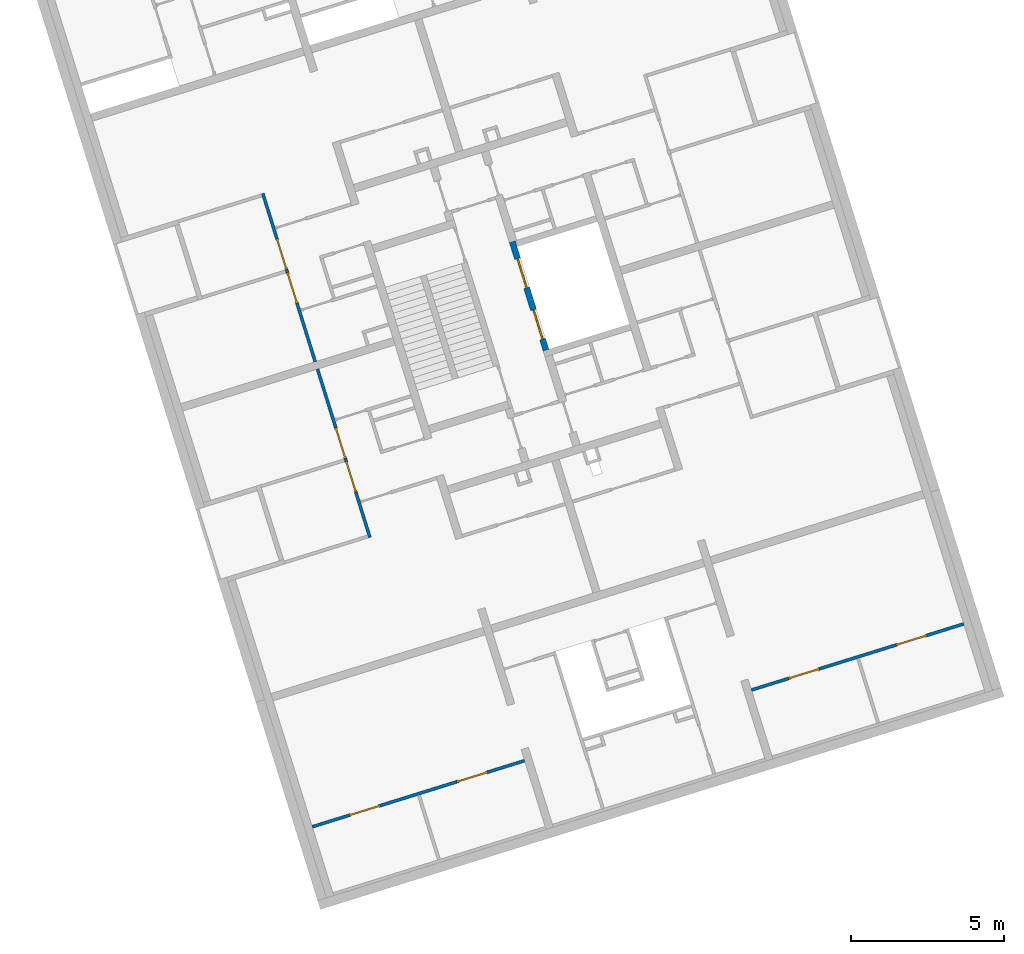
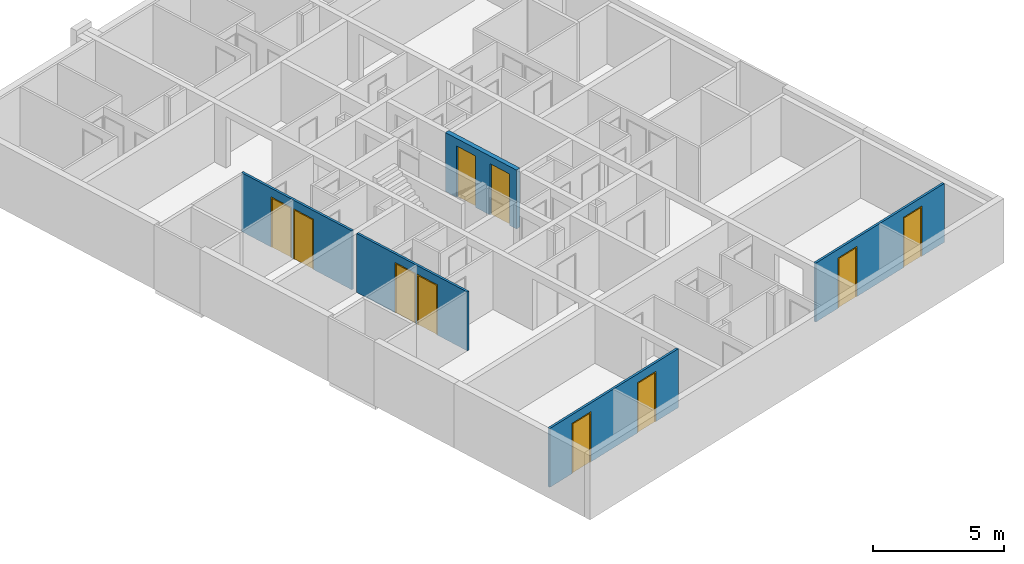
# One storey, part 10 of 12: 10 doors, 5 walls, 10 openings.
"""IFC4 building model written with IfcOpenShell, lengths in metres."""

from ifc_helpers import new_model, entity, si_unit, converted_unit, direction, frame, origin, place, context, subcontext, project, spatial, indexed_curve, outline, extrude, polygons, source, transform, mapped, material, constituent, constituent_set, type_object, type_shapes, element, fill, save


model = new_model("IFC4")

# Units and contexts
model_context = context("Model", 3, precision=1e-05, world=origin(), true_north=direction((6.12323399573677e-17, 1.0)))
body_context = subcontext(model_context, "Body", "Model", "MODEL_VIEW")
ifc_project = project(units=[si_unit("LENGTHUNIT", "METRE"), si_unit("AREAUNIT", "SQUARE_METRE"), converted_unit("PLANEANGLEUNIT", "DEGREE", entity("IfcPlaneAngleMeasure", 0.0174532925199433), si_unit("PLANEANGLEUNIT", "RADIAN"), dimensions=[0, 0, 0, 0, 0, 0, 0]), si_unit("VOLUMEUNIT", "CUBIC_METRE")], contexts=[model_context])

# Site, building, storey
site_placement = place(None, frame((13.1347999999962, 11.9886000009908, 0.0), z_axis=(0.0, 0.0, 1.0), x_axis=(0.954770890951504, 0.297342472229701, 0.0)))
site = spatial("IfcSite", under=ifc_project, at=site_placement, Name="Schiehaven", CompositionType="ELEMENT")
building_placement = place(site_placement, origin())
building = spatial("IfcBuilding", under=site, at=building_placement, Name="VORM huis", CompositionType="ELEMENT")
storey_placement = place(building_placement, frame((0.0, 0.0, 3.9)))
storey = spatial("IfcBuildingStorey", under=building, at=storey_placement, Name="01 eerste verdieping", CompositionType="ELEMENT", Elevation=3.9)

# Wall, openings, doors
ifc_material_1 = material(Name="beton_gewapend_prefab-element", Category="Miscellaneous")
wall_type_1 = type_object("IfcWallType", Name="Basic Wall:28_WA_skelet_wand 200mm_gen", PredefinedType="STANDARD")
wall_1_placement = place(storey_placement, frame((69.5250000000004, 15.3, 0.0), z_axis=(0.0, 0.0, 1.0), x_axis=(0.0, 1.0, 0.0)))
wall_1 = element("IfcWall", 1, at=wall_1_placement, inside=storey, type_object=wall_type_1, material=ifc_material_1, Name="Constructieve wand", ObjectType="Wand", PredefinedType="NOTDEFINED", context=body_context, shape_type="Tessellation", body=[
    polygons([(3.69999999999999, -0.0999999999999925, 2.75), (3.49999999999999, -0.1, 2.75), (2.16573425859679e-15, -0.0999999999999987, 2.75), (2.16573425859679e-15, -0.0999999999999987, -5.41433564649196e-16), (0.374999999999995, -0.100000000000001, -5.41433564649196e-16), (0.374999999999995, -0.100000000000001, 2.39999999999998), (1.37499999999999, -0.0999999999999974, 2.39999999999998), (1.375, -0.0999999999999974, -5.41433564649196e-16), (2.125, -0.100000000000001, -5.41433564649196e-16), (2.125, -0.100000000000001, 2.39999999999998), (3.125, -0.0999999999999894, 2.39999999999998), (3.125, -0.0999999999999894, -5.41433564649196e-16), (3.49999999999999, -0.1, 0.0), (3.69999999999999, -0.0999999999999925, -5.41433564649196e-16), (0.0, 0.0999999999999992, 2.75), (3.69999999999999, 0.0999999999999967, 2.75), (3.69999999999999, 0.0999999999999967, -5.41433564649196e-16), (3.125, 0.0999999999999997, -5.41433564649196e-16), (3.125, 0.0999999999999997, 2.39999999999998), (2.125, 0.100000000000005, 2.39999999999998), (2.125, 0.0999999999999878, -5.41433564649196e-16), (1.37499999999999, 0.0999999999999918, -5.41433564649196e-16), (1.37499999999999, 0.0999999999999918, 2.39999999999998), (0.374999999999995, 0.0999999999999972, 2.39999999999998), (0.374999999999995, 0.0999999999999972, -5.41433564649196e-16), (0.0, 0.0999999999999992, -5.41433564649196e-16)], [[[1, 2, 3, 4, 5, 6, 7, 8, 9, 10, 11, 12, 13, 14]], [[15, 16, 17, 18, 19, 20, 21, 22, 23, 24, 25, 26]], [[5, 4, 26, 25]], [[3, 2, 1, 16, 15]], [[7, 23, 22, 8]], [[24, 6, 5, 25]], [[23, 7, 6, 24]], [[11, 19, 18, 12]], [[20, 10, 9, 21]], [[19, 11, 10, 20]], [[4, 3, 15, 26]], [[1, 14, 17, 16]], [[8, 22, 21, 9]], [[17, 14, 13, 12, 18]]], closed=True),
])
opening_1_placement = place(wall_1_placement, frame((-15.3, 69.5250000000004, 0.0), z_axis=(0.0, 0.0, 1.0), x_axis=(0.0, -1.0, 0.0)))
opening_1 = element("IfcOpeningElement", 2, at=opening_1_placement, cuts=wall_1, Name="Brandweerlift", PredefinedType="OPENING", context=body_context, shape_type="SweptSolid", body=[
    extrude(outline(indexed_curve([(-1.19999999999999, -0.500000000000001), (1.19999999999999, -0.500000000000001), (1.19999999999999, 0.499999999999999), (-1.19999999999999, 0.499999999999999), (-1.19999999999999, -0.500000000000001)], self_intersect=False)), frame((70.0126380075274, 16.175, 1.19999999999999), z_axis=(-1.0, 0.0, 0.0), x_axis=(0.0, 0.0, -1.0)), (0.0, 0.0, 1.0), 0.756310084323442),
])
opening_2_placement = place(wall_1_placement, frame((-15.3, 69.5250000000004, 0.0), z_axis=(0.0, 0.0, 1.0), x_axis=(0.0, -1.0, 0.0)))
opening_2 = element("IfcOpeningElement", 3, at=opening_2_placement, cuts=wall_1, Name="Brandweerlift", PredefinedType="OPENING", context=body_context, shape_type="SweptSolid", body=[
    extrude(outline(indexed_curve([(-1.19999999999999, -0.499999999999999), (1.19999999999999, -0.499999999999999), (1.19999999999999, 0.500000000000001), (-1.19999999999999, 0.500000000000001), (-1.19999999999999, -0.499999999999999)], self_intersect=False)), frame((70.0126380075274, 17.9250000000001, 1.19999999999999), z_axis=(-1.0, 0.0, 0.0), x_axis=(0.0, 0.0, -1.0)), (0.0, 0.0, 1.0), 0.756310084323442),
])
ifc_material_2 = material(Name="metaal_aluminium_ntb", Category="Miscellaneous")
door_type_1 = type_object("IfcDoorType", Name="66_WI_liftdeur:brandweerlift - tweezijdig toegankelijk", OperationType="NOTDEFINED", PredefinedType="DOOR", material=ifc_material_2)
shared_shape_1 = source(origin(), body_context, "Body", "SweptSolid", [
    extrude(outline(indexed_curve([(-0.25, -0.0250000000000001), (0.25, -0.0249999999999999), (0.25, 0.0250000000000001), (-0.25, 0.0249999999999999), (-0.25, -0.0250000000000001)], self_intersect=False)), frame((0.750000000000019, -0.28763800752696, 0.0)), (0.0, 0.0, 1.0), 2.39999999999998),
    extrude(outline(indexed_curve([(-0.25, -0.0250000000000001), (0.25, -0.0249999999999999), (0.25, 0.0250000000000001), (-0.25, 0.0249999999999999), (-0.25, -0.0250000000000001)], self_intersect=False)), frame((0.250000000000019, -0.287638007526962, 0.0)), (0.0, 0.0, 1.0), 2.39999999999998),
])
type_shapes(door_type_1, [shared_shape_1])
door_1_placement = place(opening_1_placement, frame((69.2373619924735, 15.675, 0.0), z_axis=(0.0, 0.0, 1.0), x_axis=(0.0, 1.0, 0.0)))
door_1 = element("IfcDoor", 4, at=door_1_placement, inside=storey, type_object=door_type_1, material=ifc_material_2, Name="Brandweerlift", ObjectType="Transport", OperationType="NOTDEFINED", OverallHeight=2.39999999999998, OverallWidth=1.0, PredefinedType="DOOR", context=body_context, shape_type="MappedRepresentation", body=[
    mapped(shared_shape_1, transform((0.0, 0.0, 0.0), scale=1.0)),
])
fill(opening_1, door_1)
door_2_placement = place(opening_2_placement, frame((69.2373619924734, 17.425, 0.0), z_axis=(0.0, 0.0, 1.0), x_axis=(0.0, 1.0, 0.0)))
door_2 = element("IfcDoor", 5, at=door_2_placement, inside=storey, type_object=door_type_1, material=ifc_material_2, Name="Brandweerlift", ObjectType="Transport", OperationType="NOTDEFINED", OverallHeight=2.39999999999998, OverallWidth=1.0, PredefinedType="DOOR", context=body_context, shape_type="MappedRepresentation", body=[
    mapped(shared_shape_1, transform((0.0, 0.0, 0.0), scale=1.0)),
])
fill(opening_2, door_2)

ifc_material_3 = material(Name="ntb_ntb_ntb", Category="Miscellaneous")
wall_type_2 = type_object("IfcWallType", Name="Basic Wall:22_WA_afbouw_binnenwand 100mm_gen", PredefinedType="STANDARD")
wall_2_placement = place(storey_placement, frame((62.2250000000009, 16.925, 0.0), z_axis=(0.0, 0.0, 1.0), x_axis=(0.0, -1.0, 0.0)))
wall_2 = element("IfcWall", 6, at=wall_2_placement, inside=storey, type_object=wall_type_2, material=ifc_material_3, Name="Binnenwand", ObjectType="Wand", PredefinedType="NOTDEFINED", context=body_context, shape_type="Tessellation", body=[
    polygons([(3.04999999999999, -0.0499999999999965, -5.41433564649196e-16), (3.15, -0.0499999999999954, -5.41433564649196e-16), (3.15, -0.0499999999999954, 2.34999999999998), (4.2, -0.0500000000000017, 2.34999999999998), (4.2, -0.0500000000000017, -5.41433564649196e-16), (5.65, -0.0500000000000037, 0.0), (5.74999999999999, -0.0500000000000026, -5.41433564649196e-16), (5.74999999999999, -0.0500000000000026, 2.75), (5.65, -0.0500000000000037, 2.75), (3.15, -0.0500000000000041, 2.75), (3.05, -0.0500000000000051, 2.75), (0.0, -0.0500000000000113, 2.75), (0.0, -0.0500000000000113, -5.41433564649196e-16), (2.0, -0.0499999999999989, -5.41433564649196e-16), (1.99999999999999, -0.0499999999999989, 2.34999999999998), (3.04999999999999, -0.0499999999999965, 2.34999999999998), (3.14999999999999, 0.0499999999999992, 2.34999999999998), (3.14999999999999, 0.0499999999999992, -5.41433564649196e-16), (3.04999999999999, 0.0499999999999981, -5.41433564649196e-16), (3.04999999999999, 0.0499999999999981, 2.34999999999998), (1.99999999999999, 0.0500000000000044, 2.34999999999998), (1.99999999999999, 0.0500000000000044, -5.41433564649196e-16), (1.8, 0.0500000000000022, 0.0), (1.70000000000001, 0.0500000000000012, 0.0), (-2.16573425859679e-15, 0.0500000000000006, -5.41433564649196e-16), (-2.16573425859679e-15, 0.0500000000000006, 2.75), (1.70000000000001, 0.0500000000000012, 2.75), (1.8, 0.0500000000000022, 2.75), (4.50000000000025, 0.0500000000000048, 2.75), (4.60000000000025, 0.0500000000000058, 2.75), (5.74999999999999, 0.0500000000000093, 2.75), (5.74999999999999, 0.0500000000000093, -5.41433564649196e-16), (4.60000000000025, 0.0500000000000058, 0.0), (4.50000000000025, 0.0500000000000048, 0.0), (4.19999999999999, 0.0500000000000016, -5.41433564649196e-16), (4.19999999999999, 0.0500000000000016, 2.34999999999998)], [[[1, 2, 3, 4, 5, 6, 7, 8, 9, 10, 11, 12, 13, 14, 15, 16]], [[17, 18, 19, 20, 21, 22, 23, 24, 25, 26, 27, 28, 29, 30, 31, 32, 33, 34, 35, 36]], [[13, 25, 24, 23, 22, 14]], [[12, 11, 10, 9, 8, 31, 30, 29, 28, 27, 26]], [[13, 12, 26, 25]], [[16, 20, 19, 1]], [[21, 15, 14, 22]], [[20, 16, 15, 21]], [[5, 4, 36, 35]], [[3, 2, 18, 17]], [[4, 3, 17, 36]], [[8, 7, 32, 31]], [[19, 18, 2, 1]], [[35, 34, 33, 32, 7, 6, 5]]], closed=True),
])
opening_3_placement = place(wall_2_placement, frame((2.0, -0.0500000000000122, 0.0)))
opening_3 = element("IfcOpeningElement", 7, at=opening_3_placement, cuts=wall_2, Name="Binnendeur", PredefinedType="OPENING", context=body_context, shape_type="SweptSolid", body=[
    extrude(outline(indexed_curve([(2.34999999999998, 1.05), (0.0, 1.05), (0.0, 1.35358391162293e-15), (2.34999999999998, 1.35358391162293e-15), (2.34999999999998, 1.05)], self_intersect=False)), frame((0.0, 0.0, 0.0), z_axis=(0.0, 1.0, 0.0), x_axis=(0.0, 0.0, 1.0)), (0.0, 0.0, 1.0), 0.1),
])
opening_4_placement = place(wall_2_placement, frame((3.15, -0.0500000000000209, 0.0)))
opening_4 = element("IfcOpeningElement", 8, at=opening_4_placement, cuts=wall_2, Name="Binnendeur", PredefinedType="OPENING", context=body_context, shape_type="SweptSolid", body=[
    extrude(outline(indexed_curve([(2.34999999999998, 1.05), (0.0, 1.05), (0.0, 1.08286712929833e-15), (2.34999999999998, 1.08286712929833e-15), (2.34999999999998, 1.05)], self_intersect=False)), frame((0.0, 0.0, 0.0), z_axis=(0.0, 1.0, 0.0), x_axis=(0.0, 0.0, 1.0)), (0.0, 0.0, 1.0), 0.1),
])
ifc_material_4 = material(Name="PD_a_binnenwandopeningen", Category="Miscellaneous")
ifc_constituent_1 = constituent(ifc_material_4, Name="PD_a_binnenwandopeningen", Category="Miscellaneous")
ifc_constituent_2 = constituent(ifc_material_2, Name="metaal_aluminium_ntb", Category="Miscellaneous")
ifc_constituent_set_1 = constituent_set(constituents=[ifc_constituent_1, ifc_constituent_2])
ifc_constituent_3 = constituent(ifc_material_4, Name="PD_a_binnenwandopeningen", Category="Miscellaneous")
ifc_constituent_4 = constituent(ifc_material_2, Name="Panel", Category="Miscellaneous")
ifc_constituent_set_2 = constituent_set(constituents=[ifc_constituent_3, ifc_constituent_4])
door_type_2 = type_object("IfcDoorType", Name="32_DO_binnendeur enkel:binnendeur", OperationType="REVOLVING", PredefinedType="DOOR", material=ifc_constituent_set_2)
shared_shape_2 = source(origin(), body_context, "Body", "SweptSolid", [
    extrude(outline(indexed_curve([(-1.16249999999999, -0.525000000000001), (1.18749999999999, -0.525), (1.18749999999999, 0.525), (-1.16249999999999, 0.525), (-1.16249999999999, 0.475), (1.13749999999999, 0.475), (1.13749999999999, -0.475), (-1.16249999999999, -0.475), (-1.16249999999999, -0.525000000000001)], self_intersect=False)), frame((0.525000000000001, 0.0, 1.16249999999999), z_axis=(0.0, 1.0, 0.0), x_axis=(0.0, 0.0, 1.0)), (0.0, 0.0, 1.0), 0.1),
    extrude(outline(indexed_curve([(-0.025, -0.475), (0.025, -0.475), (0.025, 0.475), (-0.025, 0.475), (-0.025, -0.475)], self_intersect=False)), frame((0.525000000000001, 0.0499999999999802, 0.0), z_axis=(0.0, 0.0, 1.0), x_axis=(0.0, 1.0, 0.0)), (0.0, 0.0, 1.0), 2.29999999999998),
])
type_shapes(door_type_2, [shared_shape_2])
door_3_placement = place(opening_3_placement, origin())
door_3 = element("IfcDoor", 9, at=door_3_placement, inside=storey, type_object=door_type_2, material=ifc_constituent_set_1, Name="Binnendeur", ObjectType="Deur", OperationType="REVOLVING", OverallHeight=2.34999999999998, OverallWidth=1.05, PredefinedType="DOOR", context=body_context, shape_type="MappedRepresentation", body=[
    mapped(shared_shape_2, transform((0.0, 0.0, 0.0), scale=1.0)),
])
fill(opening_3, door_3)
ifc_constituent_5 = constituent(ifc_material_4, Name="PD_a_binnenwandopeningen", Category="Miscellaneous")
ifc_constituent_6 = constituent(ifc_material_2, Name="metaal_aluminium_ntb", Category="Miscellaneous")
ifc_constituent_set_3 = constituent_set(constituents=[ifc_constituent_5, ifc_constituent_6])
door_4_placement = place(opening_4_placement, origin())
door_4 = element("IfcDoor", 10, at=door_4_placement, inside=storey, type_object=door_type_2, material=ifc_constituent_set_3, Name="Binnendeur", ObjectType="Deur", OperationType="REVOLVING", OverallHeight=2.34999999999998, OverallWidth=1.05, PredefinedType="DOOR", context=body_context, shape_type="MappedRepresentation", body=[
    mapped(shared_shape_2, transform((0.0, 0.0, 0.0), scale=1.0)),
])
fill(opening_4, door_4)

wall_3_placement = place(storey_placement, frame((62.2250000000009, 17.1749999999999, 0.0), z_axis=(0.0, 0.0, 1.0), x_axis=(0.0, 1.0, 0.0)))
wall_3 = element("IfcWall", 11, at=wall_3_placement, inside=storey, type_object=wall_type_2, material=ifc_material_3, Name="Binnenwand", ObjectType="Wand", PredefinedType="NOTDEFINED", context=body_context, shape_type="Tessellation", body=[
    polygons([(3.05, -0.0499999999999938, -5.41433564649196e-16), (3.15, -0.0499999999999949, -5.41433564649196e-16), (3.15, -0.0499999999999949, 2.34999999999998), (4.2, -0.0500000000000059, 2.34999999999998), (4.2, -0.0500000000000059, -5.41433564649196e-16), (4.50000000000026, -0.0500000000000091, 0.0), (4.60000000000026, -0.0500000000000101, 0.0), (5.74999999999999, -0.0500000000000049, -5.41433564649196e-16), (5.74999999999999, -0.0500000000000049, 2.75), (4.60000000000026, -0.0500000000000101, 2.75), (4.50000000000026, -0.0500000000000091, 2.75), (1.8, -0.0500000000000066, 2.75), (1.7, -0.0500000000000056, 2.75), (0.0, -0.0500000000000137, 2.75), (0.0, -0.0500000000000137, -5.41433564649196e-16), (1.7, -0.0500000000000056, 0.0), (1.8, -0.0500000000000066, 0.0), (1.99999999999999, -0.0500000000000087, -5.41433564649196e-16), (1.99999999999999, -0.0500000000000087, 2.34999999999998), (3.04999999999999, -0.0499999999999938, 2.34999999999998), (3.15, 0.0499999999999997, 2.34999999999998), (3.15, 0.0499999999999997, -5.41433564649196e-16), (3.05, 0.0500000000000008, -5.41433564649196e-16), (3.05, 0.0500000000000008, 2.34999999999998), (1.99999999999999, 0.0499999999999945, 2.34999999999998), (1.99999999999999, 0.0499999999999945, -5.41433564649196e-16), (2.16573425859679e-15, 0.0499999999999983, -5.41433564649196e-16), (2.16573425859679e-15, 0.0499999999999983, 2.75), (3.05, 0.0500000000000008, 2.75), (3.14999999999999, 0.0499999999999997, 2.75), (5.64999999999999, 0.0499999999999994, 2.75), (5.74999999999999, 0.0499999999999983, 2.75), (5.74999999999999, 0.0499999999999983, -5.41433564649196e-16), (5.64999999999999, 0.0499999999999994, 0.0), (4.2, 0.0499999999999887, -5.41433564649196e-16), (4.2, 0.0499999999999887, 2.34999999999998)], [[[1, 2, 3, 4, 5, 6, 7, 8, 9, 10, 11, 12, 13, 14, 15, 16, 17, 18, 19, 20]], [[21, 22, 23, 24, 25, 26, 27, 28, 29, 30, 31, 32, 33, 34, 35, 36]], [[15, 27, 26, 18, 17, 16]], [[14, 13, 12, 11, 10, 9, 32, 31, 30, 29, 28]], [[15, 14, 28, 27]], [[20, 24, 23, 1]], [[25, 19, 18, 26]], [[24, 20, 19, 25]], [[5, 4, 36, 35]], [[3, 2, 22, 21]], [[4, 3, 21, 36]], [[9, 8, 33, 32]], [[23, 22, 2, 1]], [[35, 34, 33, 8, 7, 6, 5]]], closed=True),
])
opening_5_placement = place(wall_3_placement, frame((3.04999999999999, 0.0500000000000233, 0.0)))
opening_5 = element("IfcOpeningElement", 12, at=opening_5_placement, cuts=wall_3, Name="Binnendeur", PredefinedType="OPENING", context=body_context, shape_type="SweptSolid", body=[
    extrude(outline(indexed_curve([(2.34999999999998, 0.0), (2.34999999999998, 1.05), (0.0, 1.05), (0.0, 0.0), (2.34999999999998, 0.0)], self_intersect=False)), frame((0.0, 0.0, 0.0), z_axis=(0.0, -1.0, 0.0), x_axis=(0.0, 0.0, 1.0)), (0.0, 0.0, 1.0), 0.1),
])
opening_6_placement = place(wall_3_placement, frame((4.2, 0.0500000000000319, 0.0)))
opening_6 = element("IfcOpeningElement", 13, at=opening_6_placement, cuts=wall_3, Name="Binnendeur", PredefinedType="OPENING", context=body_context, shape_type="SweptSolid", body=[
    extrude(outline(indexed_curve([(2.34999999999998, 0.0), (2.34999999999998, 1.05), (0.0, 1.05), (0.0, 0.0), (2.34999999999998, 0.0)], self_intersect=False)), frame((0.0, 0.0, 0.0), z_axis=(0.0, -1.0, 0.0), x_axis=(0.0, 0.0, 1.0)), (0.0, 0.0, 1.0), 0.1),
])
ifc_constituent_7 = constituent(ifc_material_4, Name="PD_a_binnenwandopeningen", Category="Miscellaneous")
ifc_constituent_8 = constituent(ifc_material_2, Name="metaal_aluminium_ntb", Category="Miscellaneous")
ifc_constituent_set_4 = constituent_set(constituents=[ifc_constituent_7, ifc_constituent_8])
ifc_constituent_9 = constituent(ifc_material_4, Name="PD_a_binnenwandopeningen", Category="Miscellaneous")
ifc_constituent_10 = constituent(ifc_material_2, Name="Panel", Category="Miscellaneous")
ifc_constituent_set_5 = constituent_set(constituents=[ifc_constituent_9, ifc_constituent_10])
door_type_3 = type_object("IfcDoorType", Name="32_DO_binnendeur enkel:binnendeur", OperationType="REVOLVING", PredefinedType="DOOR", material=ifc_constituent_set_5)
shared_shape_3 = source(origin(), body_context, "Body", "SweptSolid", [
    extrude(outline(indexed_curve([(0.475, -1.16249999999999), (0.525, -1.16249999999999), (0.525, 1.18749999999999), (-0.525, 1.18749999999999), (-0.525, -1.16249999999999), (-0.475, -1.16249999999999), (-0.475, 1.13749999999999), (0.475, 1.13749999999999), (0.475, -1.16249999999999)], self_intersect=False)), frame((0.525000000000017, 0.100000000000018, 1.16249999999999), z_axis=(0.0, -1.0, 0.0), x_axis=(1.0, 0.0, 0.0)), (0.0, 0.0, 1.0), 0.1),
    extrude(outline(indexed_curve([(-0.475, -0.025), (0.475, -0.025), (0.475, 0.025), (-0.475, 0.025), (-0.475, -0.025)], self_intersect=False)), frame((0.525000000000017, 0.0499999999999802, 0.0)), (0.0, 0.0, 1.0), 2.29999999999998),
])
type_shapes(door_type_3, [shared_shape_3])
door_5_placement = place(opening_5_placement, frame((0.0, 0.0, 0.0), z_axis=(0.0, 0.0, 1.0), x_axis=(-1.0, 0.0, 0.0)))
door_5 = element("IfcDoor", 14, at=door_5_placement, inside=storey, type_object=door_type_3, material=ifc_constituent_set_4, Name="Binnendeur", ObjectType="Deur", OperationType="REVOLVING", OverallHeight=2.34999999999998, OverallWidth=1.05, PredefinedType="DOOR", context=body_context, shape_type="MappedRepresentation", body=[
    mapped(shared_shape_3, transform((0.0, 0.0, 0.0), scale=1.0)),
])
fill(opening_5, door_5)
ifc_constituent_11 = constituent(ifc_material_4, Name="PD_a_binnenwandopeningen", Category="Miscellaneous")
ifc_constituent_12 = constituent(ifc_material_2, Name="metaal_aluminium_ntb", Category="Miscellaneous")
ifc_constituent_set_6 = constituent_set(constituents=[ifc_constituent_11, ifc_constituent_12])
door_6_placement = place(opening_6_placement, frame((0.0, 0.0, 0.0), z_axis=(0.0, 0.0, 1.0), x_axis=(-1.0, 0.0, 0.0)))
door_6 = element("IfcDoor", 15, at=door_6_placement, inside=storey, type_object=door_type_3, material=ifc_constituent_set_6, Name="Binnendeur", ObjectType="Deur", OperationType="REVOLVING", OverallHeight=2.34999999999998, OverallWidth=1.05, PredefinedType="DOOR", context=body_context, shape_type="MappedRepresentation", body=[
    mapped(shared_shape_3, transform((0.0, 0.0, 0.0), scale=1.0)),
])
fill(opening_6, door_6)

wall_4_placement = place(storey_placement, frame((79.8750000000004, 2.72500000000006, 0.0), z_axis=(0.0, 0.0, 1.0), x_axis=(-1.0, 0.0, 0.0)))
wall_4 = element("IfcWall", 16, at=wall_4_placement, inside=storey, type_object=wall_type_2, material=ifc_material_3, Name="Binnenwand", ObjectType="Wand", PredefinedType="NOTDEFINED", context=body_context, shape_type="Tessellation", body=[
    polygons([(7.42020312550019e-16, -0.05, 0.0), (1.26250000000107, -0.0500000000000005, 0.0), (1.26250000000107, -0.0500000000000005, 2.34999999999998), (2.31250000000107, -0.05, 2.34999999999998), (2.31250000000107, -0.05, 0.0), (4.9375000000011, -0.0500000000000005, 0.0), (4.9375000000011, -0.0500000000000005, 2.34999999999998), (5.9875000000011, -0.05, 2.34999999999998), (5.9875000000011, -0.05, 0.0), (7.25000000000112, -0.0500000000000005, 0.0), (7.25000000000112, -0.0500000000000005, 2.75), (7.42020312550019e-16, -0.05, 2.75), (1.26250000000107, 0.0499999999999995, 2.34999999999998), (1.26250000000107, 0.0499999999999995, 0.0), (7.15280841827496e-16, 0.05, 0.0), (7.15280841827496e-16, 0.05, 2.75), (3.57500000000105, 0.0499999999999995, 2.75), (3.67500000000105, 0.0499999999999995, 2.75), (7.25000000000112, 0.0499999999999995, 2.75), (7.25000000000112, 0.0499999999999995, 0.0), (5.9875000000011, 0.05, 0.0), (5.9875000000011, 0.05, 2.34999999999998), (4.9375000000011, 0.0499999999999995, 2.34999999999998), (4.9375000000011, 0.0499999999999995, 0.0), (3.67500000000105, 0.0499999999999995, 5.41433564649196e-16), (3.57500000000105, 0.0499999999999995, 5.41433564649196e-16), (2.31250000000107, 0.05, 0.0), (2.31250000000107, 0.05, 2.34999999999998)], [[[1, 2, 3, 4, 5, 6, 7, 8, 9, 10, 11, 12]], [[13, 14, 15, 16, 17, 18, 19, 20, 21, 22, 23, 24, 25, 26, 27, 28]], [[10, 9, 21, 20]], [[11, 10, 20, 19]], [[12, 11, 19, 18, 17, 16]], [[1, 12, 16, 15]], [[24, 23, 7, 6]], [[22, 21, 9, 8]], [[23, 22, 8, 7]], [[5, 4, 28, 27]], [[3, 2, 14, 13]], [[4, 3, 13, 28]], [[15, 14, 2, 1]], [[27, 26, 25, 24, 6, 5]]], closed=True),
])
opening_7_placement = place(wall_4_placement, frame((5.98750000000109, 0.0499999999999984, 0.0)))
opening_7 = element("IfcOpeningElement", 17, at=opening_7_placement, cuts=wall_4, Name="Binnendeur", PredefinedType="OPENING", context=body_context, shape_type="SweptSolid", body=[
    extrude(outline(indexed_curve([(2.34999999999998, 1.05), (0.0, 1.05), (0.0, 0.0), (2.34999999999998, 0.0), (2.34999999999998, 1.05)], self_intersect=False)), frame((0.0, 0.0, 0.0), z_axis=(0.0, -1.0, 0.0), x_axis=(0.0, 0.0, 1.0)), (0.0, 0.0, 1.0), 0.1),
])
opening_8_placement = place(wall_4_placement, frame((2.31250000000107, 0.0499999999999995, 0.0)))
opening_8 = element("IfcOpeningElement", 18, at=opening_8_placement, cuts=wall_4, Name="Binnendeur", PredefinedType="OPENING", context=body_context, shape_type="SweptSolid", body=[
    extrude(outline(indexed_curve([(2.34999999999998, 5.68505242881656e-15), (2.34999999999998, 1.05), (0.0, 1.05000000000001), (0.0, 5.68505242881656e-15), (2.34999999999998, 5.68505242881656e-15)], self_intersect=False)), frame((0.0, 0.0, 0.0), z_axis=(0.0, -1.0, 0.0), x_axis=(0.0, 0.0, 1.0)), (0.0, 0.0, 1.0), 0.1),
])
ifc_constituent_13 = constituent(ifc_material_4, Name="PD_a_binnenwandopeningen", Category="Miscellaneous")
ifc_constituent_14 = constituent(ifc_material_2, Name="metaal_aluminium_ntb", Category="Miscellaneous")
ifc_constituent_set_7 = constituent_set(constituents=[ifc_constituent_13, ifc_constituent_14])
door_7_placement = place(opening_8_placement, frame((0.0, 0.0, 0.0), z_axis=(0.0, 0.0, 1.0), x_axis=(-1.0, 0.0, 0.0)))
door_7 = element("IfcDoor", 19, at=door_7_placement, inside=storey, type_object=door_type_3, material=ifc_constituent_set_7, Name="Binnendeur", ObjectType="Deur", OperationType="REVOLVING", OverallHeight=2.34999999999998, OverallWidth=1.05, PredefinedType="DOOR", context=body_context, shape_type="MappedRepresentation", body=[
    mapped(shared_shape_3, transform((0.0, 0.0, 0.0), scale=1.0)),
])
fill(opening_8, door_7)
ifc_constituent_15 = constituent(ifc_material_4, Name="PD_a_binnenwandopeningen", Category="Miscellaneous")
ifc_constituent_16 = constituent(ifc_material_2, Name="metaal_aluminium_ntb", Category="Miscellaneous")
ifc_constituent_set_8 = constituent_set(constituents=[ifc_constituent_15, ifc_constituent_16])
door_8_placement = place(opening_7_placement, frame((0.0, 0.0, 0.0), z_axis=(0.0, 0.0, 1.0), x_axis=(-1.0, 0.0, 0.0)))
door_8 = element("IfcDoor", 20, at=door_8_placement, inside=storey, type_object=door_type_2, material=ifc_constituent_set_8, Name="Binnendeur", ObjectType="Deur", OperationType="REVOLVING", OverallHeight=2.34999999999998, OverallWidth=1.05, PredefinedType="DOOR", context=body_context, shape_type="MappedRepresentation", body=[
    mapped(shared_shape_2, transform((0.0, 0.0, 0.0), scale=1.0)),
])
fill(opening_7, door_8)

wall_5_placement = place(storey_placement, frame((57.6250000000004, 2.72499999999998, 0.0)))
wall_5 = element("IfcWall", 21, at=wall_5_placement, inside=storey, type_object=wall_type_2, material=ifc_material_3, Name="Binnenwand", ObjectType="Wand", PredefinedType="NOTDEFINED", context=body_context, shape_type="Tessellation", body=[
    polygons([(3.43122866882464e-15, -0.05, 0.0), (1.26250000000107, -0.05, 0.0), (1.26250000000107, -0.05, 2.34999999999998), (2.31250000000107, -0.05, 2.34999999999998), (2.31250000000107, -0.05, 0.0), (3.57500000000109, -0.0499999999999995, 5.41433564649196e-16), (3.67500000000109, -0.05, 5.41433564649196e-16), (4.93750000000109, -0.05, 0.0), (4.93750000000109, -0.05, 2.34999999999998), (5.98750000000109, -0.05, 2.34999999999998), (5.98750000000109, -0.05, 0.0), (7.25000000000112, -0.05, 0.0), (7.25000000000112, -0.05, 2.75), (3.67500000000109, -0.05, 2.75), (3.57500000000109, -0.0499999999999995, 2.75), (3.43122866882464e-15, -0.05, 2.75), (1.26250000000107, 0.05, 2.34999999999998), (1.26250000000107, 0.05, 0.0), (4.20719512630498e-15, 0.05, 0.0), (4.20719512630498e-15, 0.05, 2.75), (7.25000000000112, 0.05, 2.75), (7.25000000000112, 0.05, 0.0), (5.98750000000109, 0.05, 0.0), (5.98750000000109, 0.05, 2.34999999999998), (4.93750000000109, 0.05, 2.34999999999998), (4.93750000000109, 0.05, 0.0), (2.31250000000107, 0.05, 0.0), (2.31250000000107, 0.05, 2.34999999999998)], [[[1, 2, 3, 4, 5, 6, 7, 8, 9, 10, 11, 12, 13, 14, 15, 16]], [[17, 18, 19, 20, 21, 22, 23, 24, 25, 26, 27, 28]], [[12, 11, 23, 22]], [[13, 12, 22, 21]], [[16, 15, 14, 13, 21, 20]], [[1, 16, 20, 19]], [[26, 25, 9, 8]], [[24, 23, 11, 10]], [[25, 24, 10, 9]], [[5, 4, 28, 27]], [[3, 2, 18, 17]], [[4, 3, 17, 28]], [[19, 18, 2, 1]], [[27, 26, 8, 7, 6, 5]]], closed=True),
])
opening_9_placement = place(wall_5_placement, frame((4.9375000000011, -0.0499999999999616, 0.0)))
opening_9 = element("IfcOpeningElement", 22, at=opening_9_placement, cuts=wall_5, Name="Binnendeur", PredefinedType="OPENING", context=body_context, shape_type="SweptSolid", body=[
    extrude(outline(indexed_curve([(2.34999999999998, 0.0), (2.34999999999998, 1.05), (0.0, 1.05), (0.0, 0.0), (2.34999999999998, 0.0)], self_intersect=False)), frame((0.0, 0.0, 0.0), z_axis=(0.0, 1.0, 0.0), x_axis=(0.0, 0.0, 1.0)), (0.0, 0.0, 1.0), 0.1),
])
opening_10_placement = place(wall_5_placement, frame((1.26250000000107, -0.0499999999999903, 0.0)))
opening_10 = element("IfcOpeningElement", 23, at=opening_10_placement, cuts=wall_5, Name="Binnendeur", PredefinedType="OPENING", context=body_context, shape_type="SweptSolid", body=[
    extrude(outline(indexed_curve([(2.34999999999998, 1.05), (0.0, 1.05), (0.0, 0.0), (2.34999999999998, 0.0), (2.34999999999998, 1.05)], self_intersect=False)), frame((0.0, 0.0, 0.0), z_axis=(0.0, 1.0, 0.0), x_axis=(0.0, 0.0, 1.0)), (0.0, 0.0, 1.0), 0.1),
])
ifc_constituent_17 = constituent(ifc_material_4, Name="PD_a_binnenwandopeningen", Category="Miscellaneous")
ifc_constituent_18 = constituent(ifc_material_2, Name="metaal_aluminium_ntb", Category="Miscellaneous")
ifc_constituent_set_9 = constituent_set(constituents=[ifc_constituent_17, ifc_constituent_18])
door_9_placement = place(opening_9_placement, origin())
door_9 = element("IfcDoor", 24, at=door_9_placement, inside=storey, type_object=door_type_3, material=ifc_constituent_set_9, Name="Binnendeur", ObjectType="Deur", OperationType="REVOLVING", OverallHeight=2.34999999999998, OverallWidth=1.05, PredefinedType="DOOR", context=body_context, shape_type="MappedRepresentation", body=[
    mapped(shared_shape_3, transform((0.0, 0.0, 0.0), scale=1.0)),
])
fill(opening_9, door_9)
ifc_constituent_19 = constituent(ifc_material_4, Name="PD_a_binnenwandopeningen", Category="Miscellaneous")
ifc_constituent_20 = constituent(ifc_material_2, Name="metaal_aluminium_ntb", Category="Miscellaneous")
ifc_constituent_set_10 = constituent_set(constituents=[ifc_constituent_19, ifc_constituent_20])
door_10_placement = place(opening_10_placement, origin())
door_10 = element("IfcDoor", 25, at=door_10_placement, inside=storey, type_object=door_type_2, material=ifc_constituent_set_10, Name="Binnendeur", ObjectType="Deur", OperationType="REVOLVING", OverallHeight=2.34999999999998, OverallWidth=1.05, PredefinedType="DOOR", context=body_context, shape_type="MappedRepresentation", body=[
    mapped(shared_shape_2, transform((0.0, 0.0, 0.0), scale=1.0)),
])
fill(opening_10, door_10)

save(model, "model.ifc")
